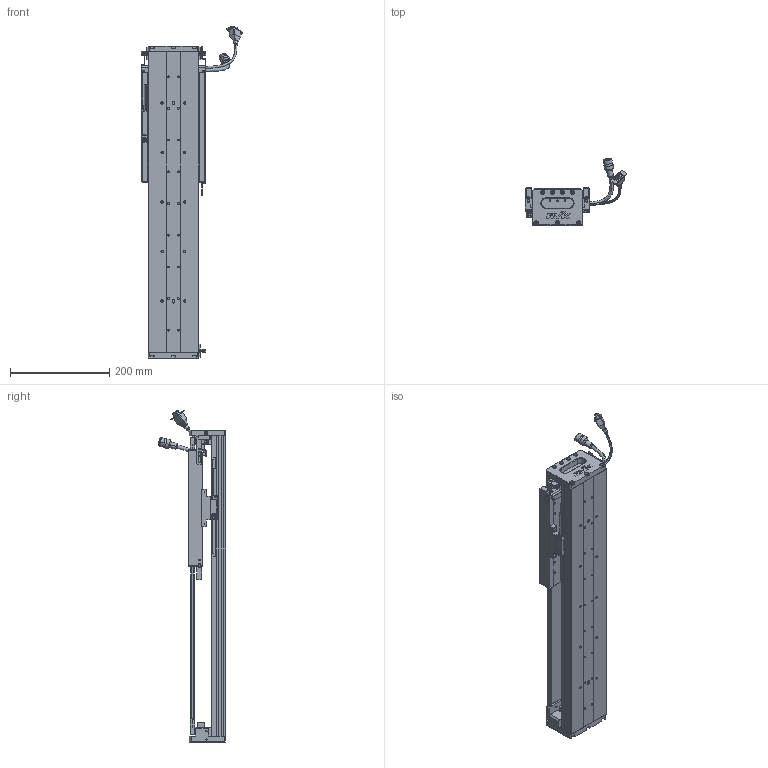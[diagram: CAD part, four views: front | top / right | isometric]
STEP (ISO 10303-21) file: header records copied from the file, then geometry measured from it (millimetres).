
FILE_DESCRIPTION (( 'STEP AP203' ), '1' );
FILE_NAME ('Z3-RY100D-1-L500-B-K.SLDASM_0300.step', '2021-05-17T02:49:29', ( '盈信电脑' ), ( '东莞市道滘镇水果街19号' ), 'SwSTEP 2.0', 'SolidWorks 2016', '' );
FILE_SCHEMA (( 'CONFIG_CONTROL_DESIGN' ));
Length unit declared in the file: millimetre
Products named in the file (36): 榋妏寠巭燃_暯_M2_2; SCALE-Part-1; Z-RY100D詩湍狟揤裔; PBU_SHEET; Z3-RY100-L500詩湍90mm遵_0300; Z-100詩湍傷裔啣; Z3-RY100D-500-倰第菁釱_0300; Z-RY100D詩湍奻揤裔; HARNESS-Part-1; 140蚥薯蝶輸; COVER; 140雄赽晤鎢ん堤盄; PSLH080_PSLF2; Z3-RY100D-1-L500-B-K.SLDASM_0300; SCREW-M1.7; SCREW-M1.6; HOLDER0; 100-Z-臏賑輸盄裔(21遴); SCREW-M1.7-1; SCREW-M1.6-1; 覜茼ん672; SEAL; SCREW-M1.6-2; Z-RY100D覜茼んえ; 080黍杅芛假蚾釱21遴; LABEL-Part-1; COVER-Part-1; SCALE; SCREW-M1.6-3; Z3-RY100铝滑块（21款）; HARNESS-Part-2; HARNESS; LABEL; SHIELDPLATE; SEAL-Part-1; SCALE-Part-2
Assembly tree (43 placements, depth 4):
  Z3-RY100D-1-L500-B-K.SLDASM_0300
    Z3-RY100D-500-倰第菁釱_0300
    Z3-RY100铝滑块（21款）
    PSLH080_PSLF2
      SCALE
        SCALE-Part-1
        SCALE-Part-2
      HARNESS
        HARNESS-Part-1
        HARNESS-Part-2
      LABEL
        LABEL-Part-1
      COVER
        COVER-Part-1
      SEAL
        SEAL-Part-1
      榋妏寠巭燃_暯_M2_2
      SHIELDPLATE
      SCREW-M1.7
      SCREW-M1.7-1
      PBU_SHEET
      SCREW-M1.6
      SCREW-M1.6-1
      SCREW-M1.6-2
      SCREW-M1.6-3
      HOLDER0
    080黍杅芛假蚾釱21遴
    Z-100詩湍傷裔啣  x2
    140蚥薯蝶輸  x2
    覜茼ん672  x3
    Z-RY100D覜茼んえ  x3
    100-Z-臏賑輸盄裔(21遴)
    140雄赽晤鎢ん堤盄
    Z3-RY100-L500詩湍90mm遵_0300
    Z-RY100D詩湍狟揤裔  x2
    Z-RY100D詩湍奻揤裔  x2
Bounding box: 205.84 x 136.11 x 670.43 mm (x, y, z)
Volume: 1696278.9 mm3; surface area: 626466.8 mm2
Topology: 38 solids, 38 shells, 2449 faces, 6325 edges, 3984 vertices
Faces by surface type: plane 1099, cylinder 1002, cone 226, torus 69, bspline 53
Entity records: 64783 total; most frequent: CARTESIAN_POINT 13685, DIRECTION 10175, ORIENTED_EDGE 9530, EDGE_CURVE 4765, AXIS2_PLACEMENT_3D 3702, VERTEX_POINT 3052, VECTOR 2771, LINE 2771
